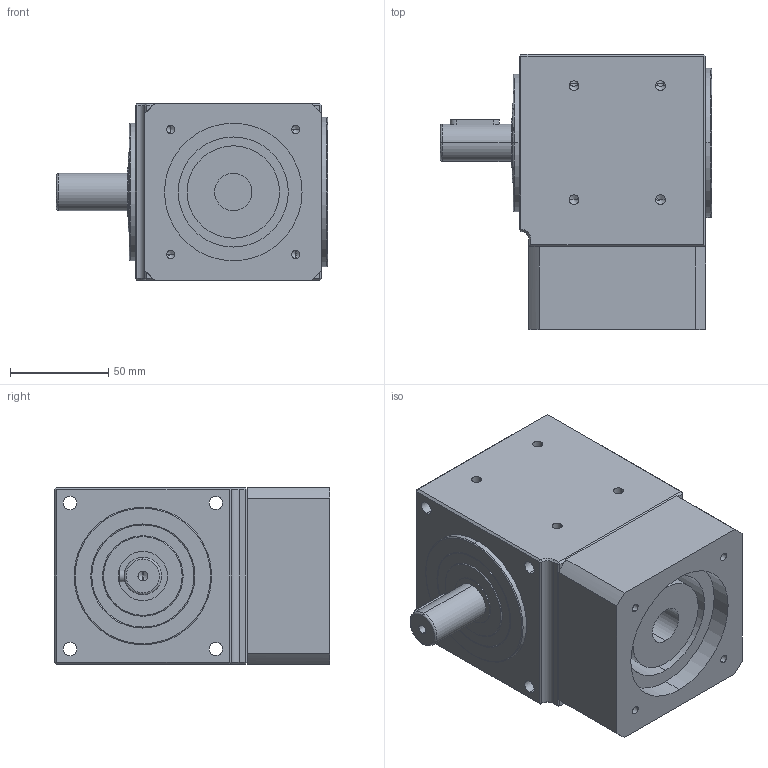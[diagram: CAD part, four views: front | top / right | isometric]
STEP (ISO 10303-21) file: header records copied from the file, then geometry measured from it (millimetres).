
FILE_DESCRIPTION (( 'STEP AP214' ), '1' );
FILE_NAME ('ZR090-002--19-70-90-M5.STEP', '2020-05-13T05:59:13', ( 'User' ), ( 'Far123' ), 'SwSTEP 2.0', 'SolidWorks 2015', '' );
FILE_SCHEMA (( 'AUTOMOTIVE_DESIGN' ));
Length unit declared in the file: millimetre
Products named in the file (1): ZR090-002--19-70-90-M5
Bounding box: 138 x 140 x 90 mm (x, y, z)
Volume: 1036403.4 mm3; surface area: 110022.2 mm2
Topology: 2 solids, 8 shells, 246 faces, 528 edges, 299 vertices
Faces by surface type: cylinder 97, plane 75, cone 64, torus 10
Entity records: 6998 total; most frequent: CARTESIAN_POINT 1272, DIRECTION 1211, ORIENTED_EDGE 1004, EDGE_CURVE 502, AXIS2_PLACEMENT_3D 484, VERTEX_POINT 299, EDGE_LOOP 289, ADVANCED_FACE 246
